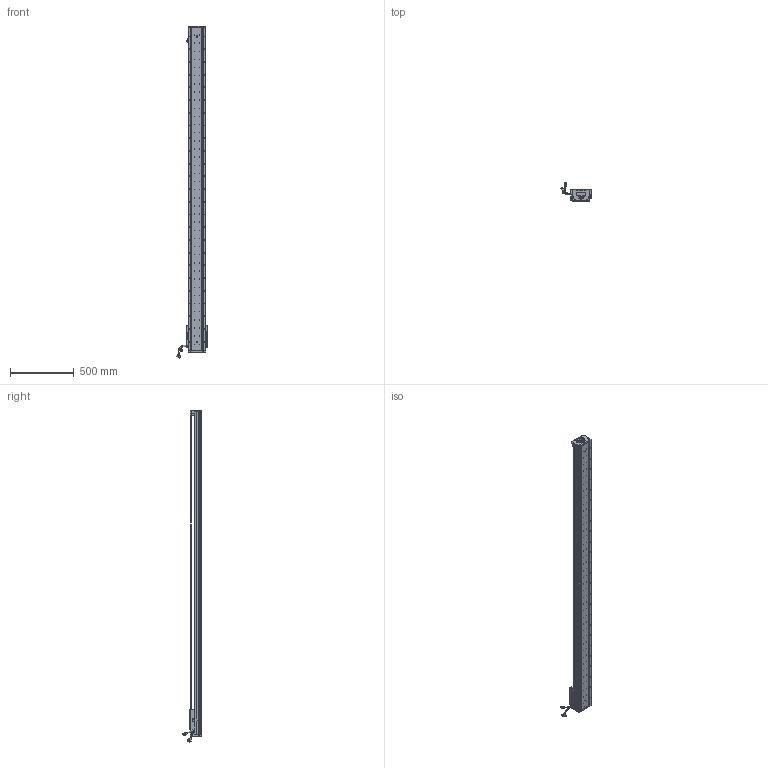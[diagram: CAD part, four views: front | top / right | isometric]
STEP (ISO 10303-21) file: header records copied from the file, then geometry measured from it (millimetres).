
FILE_DESCRIPTION (( 'STEP AP203' ), '1' );
FILE_NAME ('Z2-RY140D-1-L500-B-K.SLDASM_2300.step', '2021-05-17T07:49:15', ( '盈信电脑' ), ( '东莞市道滘镇水果街19号' ), 'SwSTEP 2.0', 'SolidWorks 2016', '' );
FILE_SCHEMA (( 'CONFIG_CONTROL_DESIGN' ));
Length unit declared in the file: millimetre
Products named in the file (36): HARNESS-Part-1; Z-RY140感应器672光电感应片; SCALE-Part-2; SHIELDPLATE; PBU_SHEET; LABEL-Part-1; 140雄赽晤鎢ん堤盄; SEAL; HARNESS; COVER; SCREW-M1.6-3; SCREW-M1.7; Z-RY140詩湍狟揤裔; SCREW-M1.7-1; SCALE-Part-1; Z-RY140詩湍奻揤裔; SEAL-Part-1; SCREW-M1.6; 140蚥薯蝶輸; Z2-RY140-L500詩湍100mm遵_2300; SCREW-M1.6-1; Z2-RY140圉猾敕臏賑輸(21遴); Z-140詩湍傷裔啣; 080黍杅芛假蚾釱21遴; 榋妏寠巭燃_暯_M2_2; COVER-Part-1; HOLDER0; Z2-RY140-L500直线电机模组底座_2300; Z2-RY140D-1-L500-B-K.SLDASM_2300; SCALE; PSLH080_PSLF2; 覜茼ん672; 140-Z-臏賑輸盄裔(21遴); HARNESS-Part-2; LABEL; SCREW-M1.6-2
Assembly tree (41 placements, depth 4):
  Z2-RY140D-1-L500-B-K.SLDASM_2300
    Z2-RY140-L500直线电机模组底座_2300
    Z-RY140感应器672光电感应片
    Z2-RY140圉猾敕臏賑輸(21遴)
    覜茼ん672  x3
    Z2-RY140-L500詩湍100mm遵_2300
    PSLH080_PSLF2
      SCALE
        SCALE-Part-1
        SCALE-Part-2
      HARNESS
        HARNESS-Part-1
        HARNESS-Part-2
      LABEL
        LABEL-Part-1
      COVER
        COVER-Part-1
      SEAL
        SEAL-Part-1
      榋妏寠巭燃_暯_M2_2
      SHIELDPLATE
      SCREW-M1.7
      SCREW-M1.7-1
      PBU_SHEET
      SCREW-M1.6
      SCREW-M1.6-1
      SCREW-M1.6-2
      SCREW-M1.6-3
      HOLDER0
    080黍杅芛假蚾釱21遴
    140-Z-臏賑輸盄裔(21遴)
    Z-140詩湍傷裔啣  x2
    Z-RY140詩湍狟揤裔  x2
    Z-RY140詩湍奻揤裔  x2
    140蚥薯蝶輸  x2
    140雄赽晤鎢ん堤盄
Bounding box: 239.79 x 143.77 x 2610.87 mm (x, y, z)
Volume: 8200781.7 mm3; surface area: 2155148.4 mm2
Topology: 36 solids, 36 shells, 4040 faces, 10980 edges, 6955 vertices
Faces by surface type: cylinder 2170, plane 1352, cone 386, torus 79, bspline 53
Entity records: 127912 total; most frequent: CARTESIAN_POINT 36103, ORIENTED_EDGE 18896, DIRECTION 17532, EDGE_CURVE 9448, AXIS2_PLACEMENT_3D 6520, VERTEX_POINT 6123, VECTOR 4492, LINE 4492
